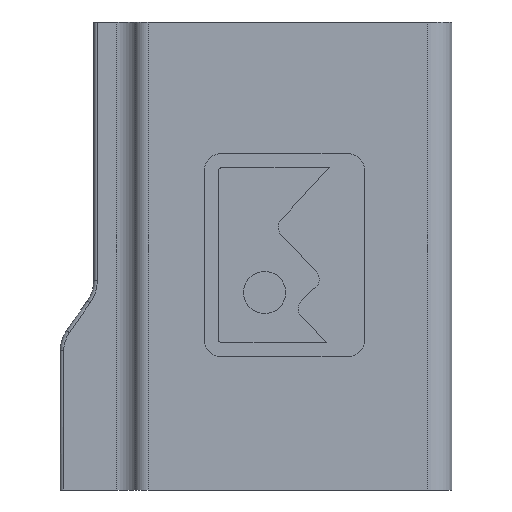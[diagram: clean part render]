
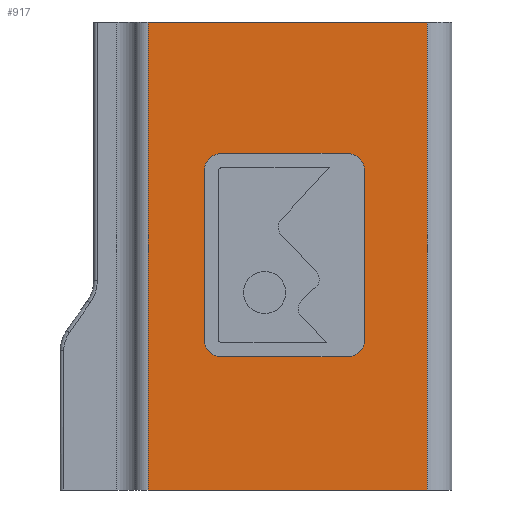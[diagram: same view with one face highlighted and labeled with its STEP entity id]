
A CAD part, front view. The second image highlights one B-rep face of the part: STEP entity #917.
In plain terms, the highlighted planar face has unit normal (0, -1, 0).
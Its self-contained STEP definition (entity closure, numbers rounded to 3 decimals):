
#20=FACE_BOUND('',#124,.T.);
#36=PLANE('',#990);
#71=FACE_OUTER_BOUND('',#123,.T.);
#123=EDGE_LOOP('',(#703,#704,#705,#706));
#124=EDGE_LOOP('',(#707,#708,#709,#710,#711,#712,#713,#714));
#180=LINE('',#1414,#263);
#185=LINE('',#1428,#268);
#189=LINE('',#1440,#272);
#193=LINE('',#1452,#276);
#197=LINE('',#1470,#280);
#198=LINE('',#1472,#281);
#199=LINE('',#1474,#282);
#200=LINE('',#1475,#283);
#263=VECTOR('',#1123,10.);
#268=VECTOR('',#1136,10.);
#272=VECTOR('',#1148,10.);
#276=VECTOR('',#1160,10.);
#280=VECTOR('',#1182,10.);
#281=VECTOR('',#1183,10.);
#282=VECTOR('',#1184,10.);
#283=VECTOR('',#1185,10.);
#330=CIRCLE('',#971,5.);
#332=CIRCLE('',#975,5.);
#334=CIRCLE('',#979,5.);
#336=CIRCLE('',#983,5.);
#395=VERTEX_POINT('',#1412);
#396=VERTEX_POINT('',#1413);
#399=VERTEX_POINT('',#1421);
#401=VERTEX_POINT('',#1427);
#403=VERTEX_POINT('',#1433);
#405=VERTEX_POINT('',#1439);
#407=VERTEX_POINT('',#1445);
#409=VERTEX_POINT('',#1451);
#413=VERTEX_POINT('',#1468);
#414=VERTEX_POINT('',#1469);
#415=VERTEX_POINT('',#1471);
#416=VERTEX_POINT('',#1473);
#498=EDGE_CURVE('',#395,#396,#180,.T.);
#502=EDGE_CURVE('',#399,#395,#330,.T.);
#505=EDGE_CURVE('',#401,#399,#185,.T.);
#508=EDGE_CURVE('',#403,#401,#332,.T.);
#511=EDGE_CURVE('',#405,#403,#189,.T.);
#514=EDGE_CURVE('',#407,#405,#334,.T.);
#517=EDGE_CURVE('',#409,#407,#193,.T.);
#520=EDGE_CURVE('',#396,#409,#336,.T.);
#525=EDGE_CURVE('',#413,#414,#197,.T.);
#526=EDGE_CURVE('',#414,#415,#198,.T.);
#527=EDGE_CURVE('',#416,#415,#199,.T.);
#528=EDGE_CURVE('',#413,#416,#200,.T.);
#703=ORIENTED_EDGE('',*,*,#525,.T.);
#704=ORIENTED_EDGE('',*,*,#526,.T.);
#705=ORIENTED_EDGE('',*,*,#527,.F.);
#706=ORIENTED_EDGE('',*,*,#528,.F.);
#707=ORIENTED_EDGE('',*,*,#498,.T.);
#708=ORIENTED_EDGE('',*,*,#520,.T.);
#709=ORIENTED_EDGE('',*,*,#517,.T.);
#710=ORIENTED_EDGE('',*,*,#514,.T.);
#711=ORIENTED_EDGE('',*,*,#511,.T.);
#712=ORIENTED_EDGE('',*,*,#508,.T.);
#713=ORIENTED_EDGE('',*,*,#505,.T.);
#714=ORIENTED_EDGE('',*,*,#502,.T.);
#917=ADVANCED_FACE('',(#71,#20),#36,.T.);
#971=AXIS2_PLACEMENT_3D('',#1422,#1129,#1130);
#975=AXIS2_PLACEMENT_3D('',#1434,#1141,#1142);
#979=AXIS2_PLACEMENT_3D('',#1446,#1153,#1154);
#983=AXIS2_PLACEMENT_3D('',#1457,#1165,#1166);
#990=AXIS2_PLACEMENT_3D('',#1467,#1180,#1181);
#1123=DIRECTION('',(0.,0.,-1.));
#1129=DIRECTION('center_axis',(0.,1.,0.));
#1130=DIRECTION('ref_axis',(1.,0.,0.));
#1136=DIRECTION('',(1.,0.,0.));
#1141=DIRECTION('center_axis',(0.,1.,0.));
#1142=DIRECTION('ref_axis',(0.,0.,1.));
#1148=DIRECTION('',(0.,0.,1.));
#1153=DIRECTION('center_axis',(0.,1.,0.));
#1154=DIRECTION('ref_axis',(-1.,0.,0.));
#1160=DIRECTION('',(-1.,0.,0.));
#1165=DIRECTION('center_axis',(0.,1.,0.));
#1166=DIRECTION('ref_axis',(0.,0.,-1.));
#1180=DIRECTION('center_axis',(0.,-1.,0.));
#1181=DIRECTION('ref_axis',(1.,0.,0.));
#1182=DIRECTION('',(-1.,0.,0.));
#1183=DIRECTION('',(0.,0.,-1.));
#1184=DIRECTION('',(-1.,0.,0.));
#1185=DIRECTION('',(0.,0.,-1.));
#1412=CARTESIAN_POINT('',(60.93,-2.5,88.917));
#1413=CARTESIAN_POINT('',(60.93,-2.5,41.521));
#1414=CARTESIAN_POINT('',(60.93,-2.5,44.459));
#1421=CARTESIAN_POINT('',(55.93,-2.5,93.917));
#1422=CARTESIAN_POINT('Origin',(55.93,-2.5,88.917));
#1427=CARTESIAN_POINT('',(20.609,-2.5,93.917));
#1428=CARTESIAN_POINT('',(10.204,-2.5,93.917));
#1433=CARTESIAN_POINT('',(15.609,-2.5,88.917));
#1434=CARTESIAN_POINT('Origin',(20.609,-2.5,88.917));
#1439=CARTESIAN_POINT('',(15.609,-2.5,41.521));
#1440=CARTESIAN_POINT('',(15.609,-2.5,20.761));
#1445=CARTESIAN_POINT('',(20.609,-2.5,36.521));
#1446=CARTESIAN_POINT('Origin',(20.609,-2.5,41.521));
#1451=CARTESIAN_POINT('',(55.93,-2.5,36.521));
#1452=CARTESIAN_POINT('',(27.865,-2.5,36.521));
#1457=CARTESIAN_POINT('Origin',(55.93,-2.5,41.521));
#1467=CARTESIAN_POINT('Origin',(-0.2,-2.5,0.));
#1468=CARTESIAN_POINT('',(78.5,-2.5,131.));
#1469=CARTESIAN_POINT('',(-0.2,-2.5,131.));
#1470=CARTESIAN_POINT('',(17.663,-2.5,131.));
#1471=CARTESIAN_POINT('',(-0.2,-2.5,-1.));
#1472=CARTESIAN_POINT('',(-0.2,-2.5,10.));
#1473=CARTESIAN_POINT('',(78.5,-2.5,-1.));
#1474=CARTESIAN_POINT('',(15.025,-2.5,-1.));
#1475=CARTESIAN_POINT('',(78.5,-2.5,0.));
